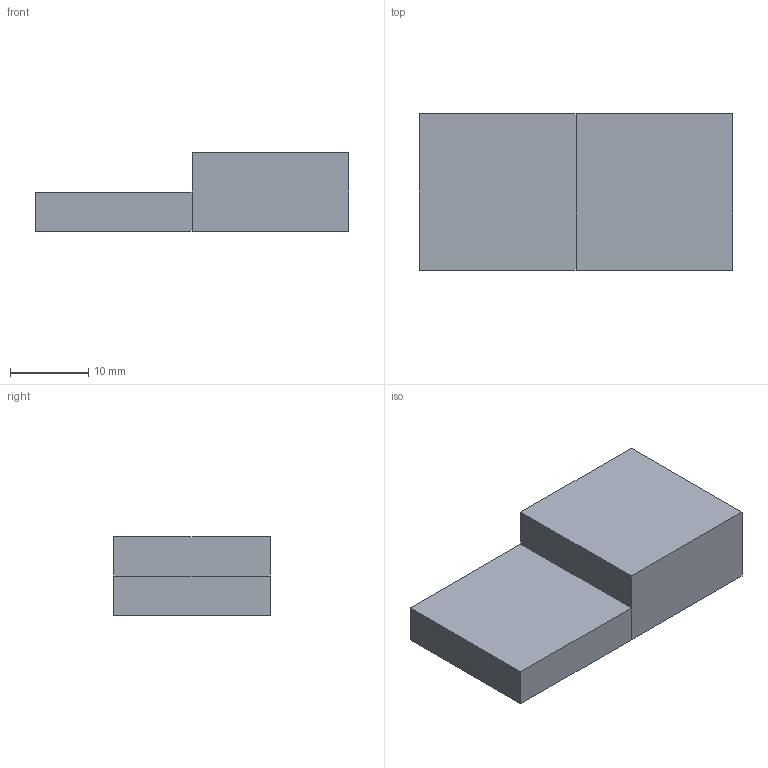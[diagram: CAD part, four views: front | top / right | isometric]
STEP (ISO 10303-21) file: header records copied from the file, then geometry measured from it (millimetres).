
FILE_DESCRIPTION(('Open CASCADE Model'),'2;1');
FILE_NAME('Open CASCADE Shape Model','2026-09-02T22:40:03',('Author'),( 'Open CASCADE'),'Open CASCADE STEP processor 7.8','Open CASCADE 7.8' ,'Unknown');
FILE_SCHEMA(('AUTOMOTIVE_DESIGN { 1 0 10303 214 1 1 1 1 }'));
Length unit declared in the file: millimetre
Products named in the file (1): Open CASCADE STEP translator 7.8 23
Bounding box: 40 x 20 x 10 mm (x, y, z)
Volume: 6000 mm3; surface area: 2600 mm2
Topology: 1 solids, 1 shells, 11 faces, 23 edges, 14 vertices
Faces by surface type: plane 11
Entity records: 594 total; most frequent: CARTESIAN_POINT 95, DIRECTION 93, LINE 69, VECTOR 69, ORIENTED_EDGE 46, PCURVE 46, DEFINITIONAL_REPRESENTATION 46, EDGE_CURVE 23
